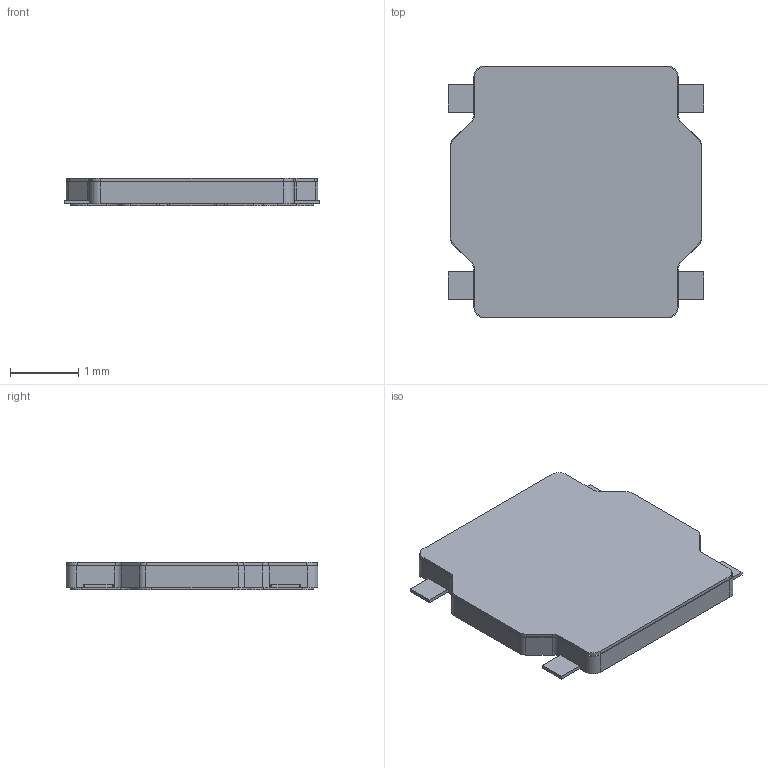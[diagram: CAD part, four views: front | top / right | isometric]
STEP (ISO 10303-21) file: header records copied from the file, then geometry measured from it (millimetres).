
FILE_DESCRIPTION((''),'2;1');
FILE_NAME('JQA3737-A0030-01EG-1-105_ASM','2026-05-21T13:58:02',('Admin'),(''),'CREO PARAMETRIC BY PTC INC, 2019224','CREO PARAMETRIC BY PTC INC, 2019224','');
FILE_SCHEMA(('AUTOMOTIVE_DESIGN { 1 0 10303 214 1 1 1 1 }'));
Length unit declared in the file: millimetre
Products named in the file (3): JQA3737-A0030-01EG-1-105_01; JQA3737-A0030-01EG-1-105_02; JQA3737-A0030-01EG-1-105_ASM
Assembly tree (2 placements, depth 2):
  JQA3737-A0030-01EG-1-105_ASM
    JQA3737-A0030-01EG-1-105_01
    JQA3737-A0030-01EG-1-105_02
Bounding box: 3.75 x 3.7 x 0.4 mm (x, y, z)
Volume: 4.4 mm3; surface area: 59.3 mm2
Topology: 2 solids, 2 shells, 161 faces, 459 edges, 303 vertices
Faces by surface type: plane 111, cylinder 48, sphere 2
Entity records: 7314 total; most frequent: CARTESIAN_POINT 935, ORIENTED_EDGE 912, DIRECTION 903, PRESENTATION_STYLE_ASSIGNMENT 505, STYLED_ITEM 462, CURVE_STYLE 460, EDGE_CURVE 456, VECTOR 351
